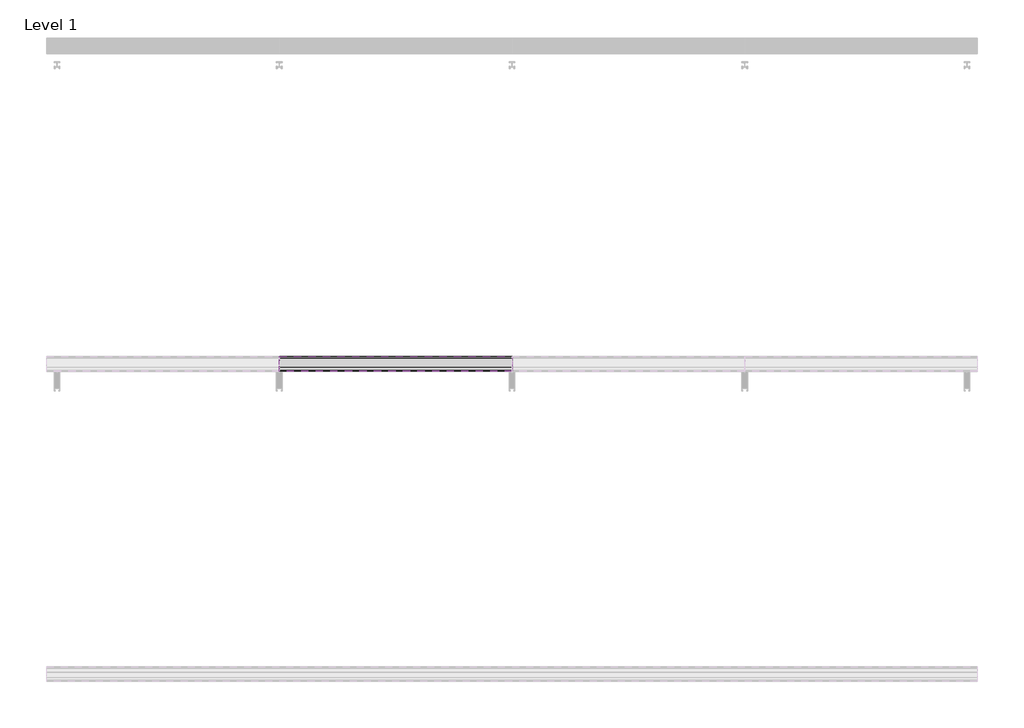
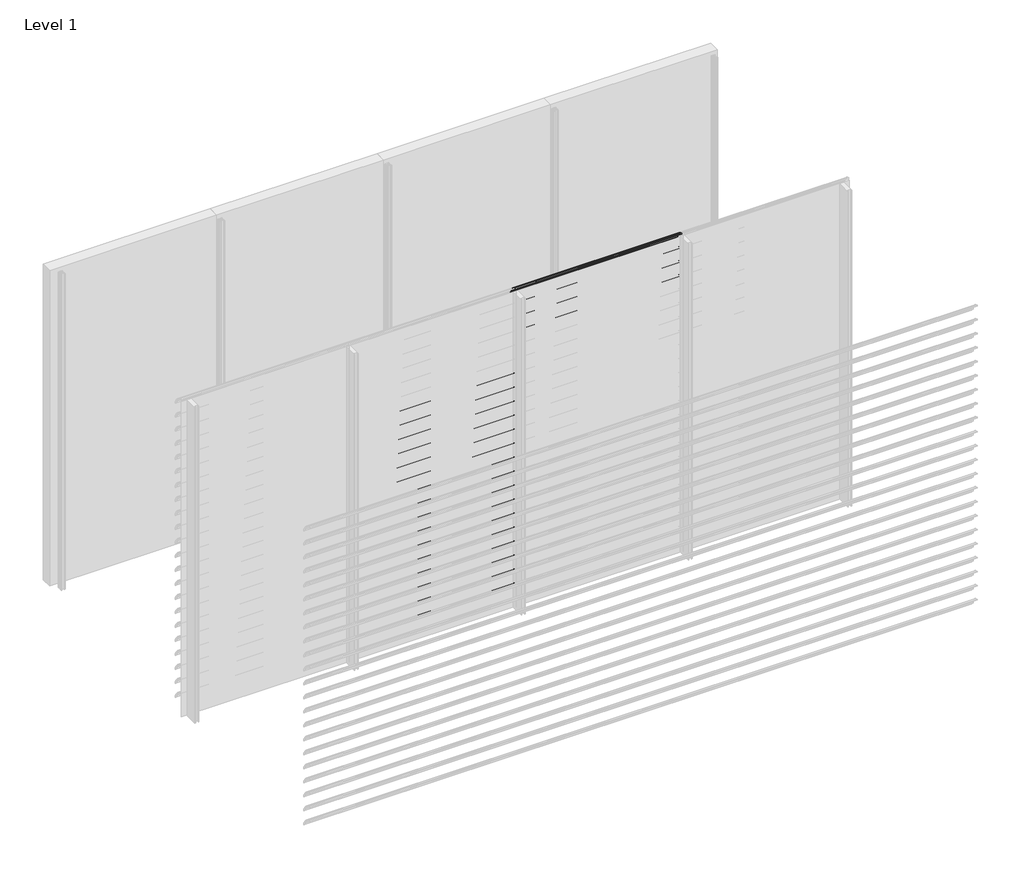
# One storey, part 11 of 57: 20 proxies.
"""IFC4 building model written with IfcOpenShell, lengths in millimetres."""

from ifc_helpers import new_model, si_unit, point, frame, frame_2d, origin, place, context, project, spatial, polyline, circle_curve, trimmed, segment, composite_curve, outline, extrude, element, save

model = new_model("IFC4")

# Units and contexts
model_context = context("Model", 3, world=origin())
ifc_project = project(units=[si_unit("LENGTHUNIT", "METRE", prefix="MILLI")], contexts=[model_context])

# Site, building, storey
site = spatial("IfcSite", under=ifc_project)
building = spatial("IfcBuilding", under=site)
storey = spatial("IfcBuildingStorey", under=building, Name="Level 1", Elevation=0.0)

# Proxies
placement = place(None, origin())
element("IfcBuildingElementProxy", 1, Name="Wall Sweeps", at=placement, inside=storey, context=model_context, shape_type="SweptSolid", body=[
    extrude(outline(composite_curve([segment(trimmed(circle_curve(frame_2d((-47993.7822526, 2218.4913792)), 4.2177474), [point((-47989.6985606, 2219.5462976))], [point((-47993.7822526, 2222.7091266))], False, "CARTESIAN"), True, "CONTINUOUS"), segment(trimmed(circle_curve(frame_2d((-48018.7150834, 2120.2536312)), 105.4456002), [point((-47993.7822526, 2222.7091266))], [point((-47971.7914298, 2214.6832099))], False, "CARTESIAN"), True, "CONTINUOUS"), segment(trimmed(circle_curve(frame_2d((-48061.7199745, 2066.0352476)), 173.7335887), [point((-47971.7914298, 2214.6832099))], [point((-47913.0720121, 2155.9637922))], False, "CARTESIAN"), True, "CONTINUOUS"), segment(trimmed(circle_curve(frame_2d((-48004.9297178, 2104.1860314)), 105.4456002), [point((-47913.0720121, 2155.9637922))], [point((-47903.6249616, 2133.4455765))], False, "CARTESIAN"), True, "CONTINUOUS"), segment(trimmed(circle_curve(frame_2d((-47907.809737, 2132.3307305)), 4.3307305), [point((-47903.6249616, 2133.4455765))], [point((-47909.0769196, 2128.189538))], False, "CARTESIAN"), True, "CONTINUOUS"), segment(polyline([(-47909.0769196, 2128.189538), (-47934.7401984, 2152.9722783)]), True, "CONTINUOUS"), segment(trimmed(circle_curve(frame_2d((-47931.3879574, 2155.2977626)), 4.079877), [point((-47934.7401984, 2152.9722783))], [point((-47930.7310597, 2159.3244091))], False, "CARTESIAN"), True, "CONTINUOUS"), segment(trimmed(circle_curve(frame_2d((-48014.6665585, 2137.2544323)), 86.7885467), [point((-47930.7310597, 2159.3244091))], [point((-47942.3028351, 2185.1683485))], True, "CARTESIAN"), True, "CONTINUOUS"), segment(polyline([(-47942.3028351, 2185.1683485), (-47940.7230099, 2187.9046861)]), True, "CONTINUOUS"), segment(trimmed(circle_curve(frame_2d((-48061.7199745, 2066.0352476)), 171.7335887), [point((-47940.7230099, 2187.9046861))], [point((-47972.7555872, 2212.9289618))], True, "CARTESIAN"), True, "CONTINUOUS"), segment(trimmed(circle_curve(frame_2d((-48018.7150834, 2120.2536312)), 103.4456002), [point((-47972.7555872, 2212.9289618))], [point((-47989.6985606, 2219.5462976))], True, "CARTESIAN"), True, "CONTINUOUS")], self_intersect=False)), frame((1500.0, 0.0, 0.0), z_axis=(1.0, 0.0, 0.0), x_axis=(0.0, 1.0, 0.0)), (0.0, 0.0, 1.0), 1500.0),
])
element("IfcBuildingElementProxy", 2, Name="Wall Sweeps", at=placement, inside=storey, context=model_context, shape_type="SweptSolid", body=[
    extrude(outline(composite_curve([segment(trimmed(circle_curve(frame_2d((-47993.7822526, 2085.4913792)), 4.2177474), [point((-47989.6985606, 2086.5462976))], [point((-47993.7822526, 2089.7091266))], False, "CARTESIAN"), True, "CONTINUOUS"), segment(trimmed(circle_curve(frame_2d((-48018.7150834, 1987.2536312)), 105.4456002), [point((-47993.7822526, 2089.7091266))], [point((-47971.7914298, 2081.6832099))], False, "CARTESIAN"), True, "CONTINUOUS"), segment(trimmed(circle_curve(frame_2d((-48061.7199745, 1933.0352476)), 173.7335887), [point((-47971.7914298, 2081.6832099))], [point((-47913.0720121, 2022.9637922))], False, "CARTESIAN"), True, "CONTINUOUS"), segment(trimmed(circle_curve(frame_2d((-48004.9297178, 1971.1860314)), 105.4456002), [point((-47913.0720121, 2022.9637922))], [point((-47903.6249616, 2000.4455765))], False, "CARTESIAN"), True, "CONTINUOUS"), segment(trimmed(circle_curve(frame_2d((-47907.809737, 1999.3307305)), 4.3307305), [point((-47903.6249616, 2000.4455765))], [point((-47909.0769196, 1995.189538))], False, "CARTESIAN"), True, "CONTINUOUS"), segment(polyline([(-47909.0769196, 1995.189538), (-47934.7401984, 2019.9722783)]), True, "CONTINUOUS"), segment(trimmed(circle_curve(frame_2d((-47931.3879574, 2022.2977626)), 4.079877), [point((-47934.7401984, 2019.9722783))], [point((-47930.7310597, 2026.3244091))], False, "CARTESIAN"), True, "CONTINUOUS"), segment(trimmed(circle_curve(frame_2d((-48014.6665585, 2004.2544323)), 86.7885467), [point((-47930.7310597, 2026.3244091))], [point((-47942.3028351, 2052.1683485))], True, "CARTESIAN"), True, "CONTINUOUS"), segment(polyline([(-47942.3028351, 2052.1683485), (-47940.7230099, 2054.9046861)]), True, "CONTINUOUS"), segment(trimmed(circle_curve(frame_2d((-48061.7199745, 1933.0352476)), 171.7335887), [point((-47940.7230099, 2054.9046861))], [point((-47972.7555872, 2079.9289618))], True, "CARTESIAN"), True, "CONTINUOUS"), segment(trimmed(circle_curve(frame_2d((-48018.7150834, 1987.2536312)), 103.4456002), [point((-47972.7555872, 2079.9289618))], [point((-47989.6985606, 2086.5462976))], True, "CARTESIAN"), True, "CONTINUOUS")], self_intersect=False)), frame((1500.0, 0.0, 0.0), z_axis=(1.0, 0.0, 0.0), x_axis=(0.0, 1.0, 0.0)), (0.0, 0.0, 1.0), 1500.0),
])
element("IfcBuildingElementProxy", 3, Name="Wall Sweeps", at=placement, inside=storey, context=model_context, shape_type="SweptSolid", body=[
    extrude(outline(composite_curve([segment(trimmed(circle_curve(frame_2d((-47993.7822526, 1952.4913792)), 4.2177474), [point((-47989.6985606, 1953.5462976))], [point((-47993.7822526, 1956.7091266))], False, "CARTESIAN"), True, "CONTINUOUS"), segment(trimmed(circle_curve(frame_2d((-48018.7150834, 1854.2536312)), 105.4456002), [point((-47993.7822526, 1956.7091266))], [point((-47971.7914298, 1948.6832099))], False, "CARTESIAN"), True, "CONTINUOUS"), segment(trimmed(circle_curve(frame_2d((-48061.7199745, 1800.0352476)), 173.7335887), [point((-47971.7914298, 1948.6832099))], [point((-47913.0720121, 1889.9637922))], False, "CARTESIAN"), True, "CONTINUOUS"), segment(trimmed(circle_curve(frame_2d((-48004.9297178, 1838.1860314)), 105.4456002), [point((-47913.0720121, 1889.9637922))], [point((-47903.6249616, 1867.4455765))], False, "CARTESIAN"), True, "CONTINUOUS"), segment(trimmed(circle_curve(frame_2d((-47907.809737, 1866.3307305)), 4.3307305), [point((-47903.6249616, 1867.4455765))], [point((-47909.0769196, 1862.189538))], False, "CARTESIAN"), True, "CONTINUOUS"), segment(polyline([(-47909.0769196, 1862.189538), (-47934.7401984, 1886.9722783)]), True, "CONTINUOUS"), segment(trimmed(circle_curve(frame_2d((-47931.3879574, 1889.2977626)), 4.079877), [point((-47934.7401984, 1886.9722783))], [point((-47930.7310597, 1893.3244091))], False, "CARTESIAN"), True, "CONTINUOUS"), segment(trimmed(circle_curve(frame_2d((-48014.6665585, 1871.2544323)), 86.7885467), [point((-47930.7310597, 1893.3244091))], [point((-47942.3028351, 1919.1683485))], True, "CARTESIAN"), True, "CONTINUOUS"), segment(polyline([(-47942.3028351, 1919.1683485), (-47940.7230099, 1921.9046861)]), True, "CONTINUOUS"), segment(trimmed(circle_curve(frame_2d((-48061.7199745, 1800.0352476)), 171.7335887), [point((-47940.7230099, 1921.9046861))], [point((-47972.7555872, 1946.9289618))], True, "CARTESIAN"), True, "CONTINUOUS"), segment(trimmed(circle_curve(frame_2d((-48018.7150834, 1854.2536312)), 103.4456002), [point((-47972.7555872, 1946.9289618))], [point((-47989.6985606, 1953.5462976))], True, "CARTESIAN"), True, "CONTINUOUS")], self_intersect=False)), frame((1500.0, 0.0, 0.0), z_axis=(1.0, 0.0, 0.0), x_axis=(0.0, 1.0, 0.0)), (0.0, 0.0, 1.0), 1500.0),
])
element("IfcBuildingElementProxy", 4, Name="Wall Sweeps", at=placement, inside=storey, context=model_context, shape_type="SweptSolid", body=[
    extrude(outline(composite_curve([segment(trimmed(circle_curve(frame_2d((-47993.7822526, 1819.4913792)), 4.2177474), [point((-47989.6985606, 1820.5462976))], [point((-47993.7822526, 1823.7091266))], False, "CARTESIAN"), True, "CONTINUOUS"), segment(trimmed(circle_curve(frame_2d((-48018.7150834, 1721.2536312)), 105.4456002), [point((-47993.7822526, 1823.7091266))], [point((-47971.7914298, 1815.6832099))], False, "CARTESIAN"), True, "CONTINUOUS"), segment(trimmed(circle_curve(frame_2d((-48061.7199745, 1667.0352476)), 173.7335887), [point((-47971.7914298, 1815.6832099))], [point((-47913.0720121, 1756.9637922))], False, "CARTESIAN"), True, "CONTINUOUS"), segment(trimmed(circle_curve(frame_2d((-48004.9297178, 1705.1860314)), 105.4456002), [point((-47913.0720121, 1756.9637922))], [point((-47903.6249616, 1734.4455765))], False, "CARTESIAN"), True, "CONTINUOUS"), segment(trimmed(circle_curve(frame_2d((-47907.809737, 1733.3307305)), 4.3307305), [point((-47903.6249616, 1734.4455765))], [point((-47909.0769196, 1729.189538))], False, "CARTESIAN"), True, "CONTINUOUS"), segment(polyline([(-47909.0769196, 1729.189538), (-47934.7401984, 1753.9722783)]), True, "CONTINUOUS"), segment(trimmed(circle_curve(frame_2d((-47931.3879574, 1756.2977626)), 4.079877), [point((-47934.7401984, 1753.9722783))], [point((-47930.7310597, 1760.3244091))], False, "CARTESIAN"), True, "CONTINUOUS"), segment(trimmed(circle_curve(frame_2d((-48014.6665585, 1738.2544323)), 86.7885467), [point((-47930.7310597, 1760.3244091))], [point((-47942.3028351, 1786.1683485))], True, "CARTESIAN"), True, "CONTINUOUS"), segment(polyline([(-47942.3028351, 1786.1683485), (-47940.7230099, 1788.9046861)]), True, "CONTINUOUS"), segment(trimmed(circle_curve(frame_2d((-48061.7199745, 1667.0352476)), 171.7335887), [point((-47940.7230099, 1788.9046861))], [point((-47972.7555872, 1813.9289618))], True, "CARTESIAN"), True, "CONTINUOUS"), segment(trimmed(circle_curve(frame_2d((-48018.7150834, 1721.2536312)), 103.4456002), [point((-47972.7555872, 1813.9289618))], [point((-47989.6985606, 1820.5462976))], True, "CARTESIAN"), True, "CONTINUOUS")], self_intersect=False)), frame((1500.0, 0.0, 0.0), z_axis=(1.0, 0.0, 0.0), x_axis=(0.0, 1.0, 0.0)), (0.0, 0.0, 1.0), 1500.0),
])
element("IfcBuildingElementProxy", 5, Name="Wall Sweeps", at=placement, inside=storey, context=model_context, shape_type="SweptSolid", body=[
    extrude(outline(composite_curve([segment(trimmed(circle_curve(frame_2d((-47993.7822526, 1686.4913792)), 4.2177474), [point((-47989.6985606, 1687.5462976))], [point((-47993.7822526, 1690.7091266))], False, "CARTESIAN"), True, "CONTINUOUS"), segment(trimmed(circle_curve(frame_2d((-48018.7150834, 1588.2536312)), 105.4456002), [point((-47993.7822526, 1690.7091266))], [point((-47971.7914298, 1682.6832099))], False, "CARTESIAN"), True, "CONTINUOUS"), segment(trimmed(circle_curve(frame_2d((-48061.7199745, 1534.0352476)), 173.7335887), [point((-47971.7914298, 1682.6832099))], [point((-47913.0720121, 1623.9637922))], False, "CARTESIAN"), True, "CONTINUOUS"), segment(trimmed(circle_curve(frame_2d((-48004.9297178, 1572.1860314)), 105.4456002), [point((-47913.0720121, 1623.9637922))], [point((-47903.6249616, 1601.4455765))], False, "CARTESIAN"), True, "CONTINUOUS"), segment(trimmed(circle_curve(frame_2d((-47907.809737, 1600.3307305)), 4.3307305), [point((-47903.6249616, 1601.4455765))], [point((-47909.0769196, 1596.189538))], False, "CARTESIAN"), True, "CONTINUOUS"), segment(polyline([(-47909.0769196, 1596.189538), (-47934.7401984, 1620.9722783)]), True, "CONTINUOUS"), segment(trimmed(circle_curve(frame_2d((-47931.3879574, 1623.2977626)), 4.079877), [point((-47934.7401984, 1620.9722783))], [point((-47930.7310597, 1627.3244091))], False, "CARTESIAN"), True, "CONTINUOUS"), segment(trimmed(circle_curve(frame_2d((-48014.6665585, 1605.2544323)), 86.7885467), [point((-47930.7310597, 1627.3244091))], [point((-47942.3028351, 1653.1683485))], True, "CARTESIAN"), True, "CONTINUOUS"), segment(polyline([(-47942.3028351, 1653.1683485), (-47940.7230099, 1655.9046861)]), True, "CONTINUOUS"), segment(trimmed(circle_curve(frame_2d((-48061.7199745, 1534.0352476)), 171.7335887), [point((-47940.7230099, 1655.9046861))], [point((-47972.7555872, 1680.9289618))], True, "CARTESIAN"), True, "CONTINUOUS"), segment(trimmed(circle_curve(frame_2d((-48018.7150834, 1588.2536312)), 103.4456002), [point((-47972.7555872, 1680.9289618))], [point((-47989.6985606, 1687.5462976))], True, "CARTESIAN"), True, "CONTINUOUS")], self_intersect=False)), frame((1500.0, 0.0, 0.0), z_axis=(1.0, 0.0, 0.0), x_axis=(0.0, 1.0, 0.0)), (0.0, 0.0, 1.0), 1500.0),
])
element("IfcBuildingElementProxy", 6, Name="Wall Sweeps", at=placement, inside=storey, context=model_context, shape_type="SweptSolid", body=[
    extrude(outline(composite_curve([segment(trimmed(circle_curve(frame_2d((-47993.7822526, 1553.4913792)), 4.2177474), [point((-47989.6985606, 1554.5462976))], [point((-47993.7822526, 1557.7091266))], False, "CARTESIAN"), True, "CONTINUOUS"), segment(trimmed(circle_curve(frame_2d((-48018.7150834, 1455.2536312)), 105.4456002), [point((-47993.7822526, 1557.7091266))], [point((-47971.7914298, 1549.6832099))], False, "CARTESIAN"), True, "CONTINUOUS"), segment(trimmed(circle_curve(frame_2d((-48061.7199745, 1401.0352476)), 173.7335887), [point((-47971.7914298, 1549.6832099))], [point((-47913.0720121, 1490.9637922))], False, "CARTESIAN"), True, "CONTINUOUS"), segment(trimmed(circle_curve(frame_2d((-48004.9297178, 1439.1860314)), 105.4456002), [point((-47913.0720121, 1490.9637922))], [point((-47903.6249616, 1468.4455765))], False, "CARTESIAN"), True, "CONTINUOUS"), segment(trimmed(circle_curve(frame_2d((-47907.809737, 1467.3307305)), 4.3307305), [point((-47903.6249616, 1468.4455765))], [point((-47909.0769196, 1463.189538))], False, "CARTESIAN"), True, "CONTINUOUS"), segment(polyline([(-47909.0769196, 1463.189538), (-47934.7401984, 1487.9722783)]), True, "CONTINUOUS"), segment(trimmed(circle_curve(frame_2d((-47931.3879574, 1490.2977626)), 4.079877), [point((-47934.7401984, 1487.9722783))], [point((-47930.7310597, 1494.3244091))], False, "CARTESIAN"), True, "CONTINUOUS"), segment(trimmed(circle_curve(frame_2d((-48014.6665585, 1472.2544323)), 86.7885467), [point((-47930.7310597, 1494.3244091))], [point((-47942.3028351, 1520.1683485))], True, "CARTESIAN"), True, "CONTINUOUS"), segment(polyline([(-47942.3028351, 1520.1683485), (-47940.7230099, 1522.9046861)]), True, "CONTINUOUS"), segment(trimmed(circle_curve(frame_2d((-48061.7199745, 1401.0352476)), 171.7335887), [point((-47940.7230099, 1522.9046861))], [point((-47972.7555872, 1547.9289618))], True, "CARTESIAN"), True, "CONTINUOUS"), segment(trimmed(circle_curve(frame_2d((-48018.7150834, 1455.2536312)), 103.4456002), [point((-47972.7555872, 1547.9289618))], [point((-47989.6985606, 1554.5462976))], True, "CARTESIAN"), True, "CONTINUOUS")], self_intersect=False)), frame((1500.0, 0.0, 0.0), z_axis=(1.0, 0.0, 0.0), x_axis=(0.0, 1.0, 0.0)), (0.0, 0.0, 1.0), 1500.0),
])
element("IfcBuildingElementProxy", 7, Name="Wall Sweeps", at=placement, inside=storey, context=model_context, shape_type="SweptSolid", body=[
    extrude(outline(composite_curve([segment(trimmed(circle_curve(frame_2d((-47993.7822526, 1420.4913792)), 4.2177474), [point((-47989.6985606, 1421.5462976))], [point((-47993.7822526, 1424.7091266))], False, "CARTESIAN"), True, "CONTINUOUS"), segment(trimmed(circle_curve(frame_2d((-48018.7150834, 1322.2536312)), 105.4456002), [point((-47993.7822526, 1424.7091266))], [point((-47971.7914298, 1416.6832099))], False, "CARTESIAN"), True, "CONTINUOUS"), segment(trimmed(circle_curve(frame_2d((-48061.7199745, 1268.0352476)), 173.7335887), [point((-47971.7914298, 1416.6832099))], [point((-47913.0720121, 1357.9637922))], False, "CARTESIAN"), True, "CONTINUOUS"), segment(trimmed(circle_curve(frame_2d((-48004.9297178, 1306.1860314)), 105.4456002), [point((-47913.0720121, 1357.9637922))], [point((-47903.6249616, 1335.4455765))], False, "CARTESIAN"), True, "CONTINUOUS"), segment(trimmed(circle_curve(frame_2d((-47907.809737, 1334.3307305)), 4.3307305), [point((-47903.6249616, 1335.4455765))], [point((-47909.0769196, 1330.189538))], False, "CARTESIAN"), True, "CONTINUOUS"), segment(polyline([(-47909.0769196, 1330.189538), (-47934.7401984, 1354.9722783)]), True, "CONTINUOUS"), segment(trimmed(circle_curve(frame_2d((-47931.3879574, 1357.2977626)), 4.079877), [point((-47934.7401984, 1354.9722783))], [point((-47930.7310597, 1361.3244091))], False, "CARTESIAN"), True, "CONTINUOUS"), segment(trimmed(circle_curve(frame_2d((-48014.6665585, 1339.2544323)), 86.7885467), [point((-47930.7310597, 1361.3244091))], [point((-47942.3028351, 1387.1683485))], True, "CARTESIAN"), True, "CONTINUOUS"), segment(polyline([(-47942.3028351, 1387.1683485), (-47940.7230099, 1389.9046861)]), True, "CONTINUOUS"), segment(trimmed(circle_curve(frame_2d((-48061.7199745, 1268.0352476)), 171.7335887), [point((-47940.7230099, 1389.9046861))], [point((-47972.7555872, 1414.9289618))], True, "CARTESIAN"), True, "CONTINUOUS"), segment(trimmed(circle_curve(frame_2d((-48018.7150834, 1322.2536312)), 103.4456002), [point((-47972.7555872, 1414.9289618))], [point((-47989.6985606, 1421.5462976))], True, "CARTESIAN"), True, "CONTINUOUS")], self_intersect=False)), frame((1500.0, 0.0, 0.0), z_axis=(1.0, 0.0, 0.0), x_axis=(0.0, 1.0, 0.0)), (0.0, 0.0, 1.0), 1500.0),
])
element("IfcBuildingElementProxy", 8, Name="Wall Sweeps", at=placement, inside=storey, context=model_context, shape_type="SweptSolid", body=[
    extrude(outline(composite_curve([segment(trimmed(circle_curve(frame_2d((-47993.7822526, 1287.4913792)), 4.2177474), [point((-47989.6985606, 1288.5462976))], [point((-47993.7822526, 1291.7091266))], False, "CARTESIAN"), True, "CONTINUOUS"), segment(trimmed(circle_curve(frame_2d((-48018.7150834, 1189.2536312)), 105.4456002), [point((-47993.7822526, 1291.7091266))], [point((-47971.7914298, 1283.6832099))], False, "CARTESIAN"), True, "CONTINUOUS"), segment(trimmed(circle_curve(frame_2d((-48061.7199745, 1135.0352476)), 173.7335887), [point((-47971.7914298, 1283.6832099))], [point((-47913.0720121, 1224.9637922))], False, "CARTESIAN"), True, "CONTINUOUS"), segment(trimmed(circle_curve(frame_2d((-48004.9297178, 1173.1860314)), 105.4456002), [point((-47913.0720121, 1224.9637922))], [point((-47903.6249616, 1202.4455765))], False, "CARTESIAN"), True, "CONTINUOUS"), segment(trimmed(circle_curve(frame_2d((-47907.809737, 1201.3307305)), 4.3307305), [point((-47903.6249616, 1202.4455765))], [point((-47909.0769196, 1197.189538))], False, "CARTESIAN"), True, "CONTINUOUS"), segment(polyline([(-47909.0769196, 1197.189538), (-47934.7401984, 1221.9722783)]), True, "CONTINUOUS"), segment(trimmed(circle_curve(frame_2d((-47931.3879574, 1224.2977626)), 4.079877), [point((-47934.7401984, 1221.9722783))], [point((-47930.7310597, 1228.3244091))], False, "CARTESIAN"), True, "CONTINUOUS"), segment(trimmed(circle_curve(frame_2d((-48014.6665585, 1206.2544323)), 86.7885467), [point((-47930.7310597, 1228.3244091))], [point((-47942.3028351, 1254.1683485))], True, "CARTESIAN"), True, "CONTINUOUS"), segment(polyline([(-47942.3028351, 1254.1683485), (-47940.7230099, 1256.9046861)]), True, "CONTINUOUS"), segment(trimmed(circle_curve(frame_2d((-48061.7199745, 1135.0352476)), 171.7335887), [point((-47940.7230099, 1256.9046861))], [point((-47972.7555872, 1281.9289618))], True, "CARTESIAN"), True, "CONTINUOUS"), segment(trimmed(circle_curve(frame_2d((-48018.7150834, 1189.2536312)), 103.4456002), [point((-47972.7555872, 1281.9289618))], [point((-47989.6985606, 1288.5462976))], True, "CARTESIAN"), True, "CONTINUOUS")], self_intersect=False)), frame((1500.0, 0.0, 0.0), z_axis=(1.0, 0.0, 0.0), x_axis=(0.0, 1.0, 0.0)), (0.0, 0.0, 1.0), 1500.0),
])
element("IfcBuildingElementProxy", 9, Name="Wall Sweeps", at=placement, inside=storey, context=model_context, shape_type="SweptSolid", body=[
    extrude(outline(composite_curve([segment(trimmed(circle_curve(frame_2d((-47993.7822526, 1154.4913792)), 4.2177474), [point((-47989.6985606, 1155.5462976))], [point((-47993.7822526, 1158.7091266))], False, "CARTESIAN"), True, "CONTINUOUS"), segment(trimmed(circle_curve(frame_2d((-48018.7150834, 1056.2536312)), 105.4456002), [point((-47993.7822526, 1158.7091266))], [point((-47971.7914298, 1150.6832099))], False, "CARTESIAN"), True, "CONTINUOUS"), segment(trimmed(circle_curve(frame_2d((-48061.7199745, 1002.0352476)), 173.7335887), [point((-47971.7914298, 1150.6832099))], [point((-47913.0720121, 1091.9637922))], False, "CARTESIAN"), True, "CONTINUOUS"), segment(trimmed(circle_curve(frame_2d((-48004.9297178, 1040.1860314)), 105.4456002), [point((-47913.0720121, 1091.9637922))], [point((-47903.6249616, 1069.4455765))], False, "CARTESIAN"), True, "CONTINUOUS"), segment(trimmed(circle_curve(frame_2d((-47907.809737, 1068.3307305)), 4.3307305), [point((-47903.6249616, 1069.4455765))], [point((-47909.0769196, 1064.189538))], False, "CARTESIAN"), True, "CONTINUOUS"), segment(polyline([(-47909.0769196, 1064.189538), (-47934.7401984, 1088.9722783)]), True, "CONTINUOUS"), segment(trimmed(circle_curve(frame_2d((-47931.3879574, 1091.2977626)), 4.079877), [point((-47934.7401984, 1088.9722783))], [point((-47930.7310597, 1095.3244091))], False, "CARTESIAN"), True, "CONTINUOUS"), segment(trimmed(circle_curve(frame_2d((-48014.6665585, 1073.2544323)), 86.7885467), [point((-47930.7310597, 1095.3244091))], [point((-47942.3028351, 1121.1683485))], True, "CARTESIAN"), True, "CONTINUOUS"), segment(polyline([(-47942.3028351, 1121.1683485), (-47940.7230099, 1123.9046861)]), True, "CONTINUOUS"), segment(trimmed(circle_curve(frame_2d((-48061.7199745, 1002.0352476)), 171.7335887), [point((-47940.7230099, 1123.9046861))], [point((-47972.7555872, 1148.9289618))], True, "CARTESIAN"), True, "CONTINUOUS"), segment(trimmed(circle_curve(frame_2d((-48018.7150834, 1056.2536312)), 103.4456002), [point((-47972.7555872, 1148.9289618))], [point((-47989.6985606, 1155.5462976))], True, "CARTESIAN"), True, "CONTINUOUS")], self_intersect=False)), frame((1500.0, 0.0, 0.0), z_axis=(1.0, 0.0, 0.0), x_axis=(0.0, 1.0, 0.0)), (0.0, 0.0, 1.0), 1500.0),
])
element("IfcBuildingElementProxy", 10, Name="Wall Sweeps", at=placement, inside=storey, context=model_context, shape_type="SweptSolid", body=[
    extrude(outline(composite_curve([segment(trimmed(circle_curve(frame_2d((-47993.7822526, 1021.4913792)), 4.2177474), [point((-47989.6985606, 1022.5462976))], [point((-47993.7822526, 1025.7091266))], False, "CARTESIAN"), True, "CONTINUOUS"), segment(trimmed(circle_curve(frame_2d((-48018.7150834, 923.2536312)), 105.4456002), [point((-47993.7822526, 1025.7091266))], [point((-47971.7914298, 1017.6832099))], False, "CARTESIAN"), True, "CONTINUOUS"), segment(trimmed(circle_curve(frame_2d((-48061.7199745, 869.0352476)), 173.7335887), [point((-47971.7914298, 1017.6832099))], [point((-47913.0720121, 958.9637922))], False, "CARTESIAN"), True, "CONTINUOUS"), segment(trimmed(circle_curve(frame_2d((-48004.9297178, 907.1860314)), 105.4456002), [point((-47913.0720121, 958.9637922))], [point((-47903.6249616, 936.4455765))], False, "CARTESIAN"), True, "CONTINUOUS"), segment(trimmed(circle_curve(frame_2d((-47907.809737, 935.3307305)), 4.3307305), [point((-47903.6249616, 936.4455765))], [point((-47909.0769196, 931.189538))], False, "CARTESIAN"), True, "CONTINUOUS"), segment(polyline([(-47909.0769196, 931.189538), (-47934.7401984, 955.9722783)]), True, "CONTINUOUS"), segment(trimmed(circle_curve(frame_2d((-47931.3879574, 958.2977626)), 4.079877), [point((-47934.7401984, 955.9722783))], [point((-47930.7310597, 962.3244091))], False, "CARTESIAN"), True, "CONTINUOUS"), segment(trimmed(circle_curve(frame_2d((-48014.6665585, 940.2544323)), 86.7885467), [point((-47930.7310597, 962.3244091))], [point((-47942.3028351, 988.1683485))], True, "CARTESIAN"), True, "CONTINUOUS"), segment(polyline([(-47942.3028351, 988.1683485), (-47940.7230099, 990.9046861)]), True, "CONTINUOUS"), segment(trimmed(circle_curve(frame_2d((-48061.7199745, 869.0352476)), 171.7335887), [point((-47940.7230099, 990.9046861))], [point((-47972.7555872, 1015.9289618))], True, "CARTESIAN"), True, "CONTINUOUS"), segment(trimmed(circle_curve(frame_2d((-48018.7150834, 923.2536312)), 103.4456002), [point((-47972.7555872, 1015.9289618))], [point((-47989.6985606, 1022.5462976))], True, "CARTESIAN"), True, "CONTINUOUS")], self_intersect=False)), frame((1500.0, 0.0, 0.0), z_axis=(1.0, 0.0, 0.0), x_axis=(0.0, 1.0, 0.0)), (0.0, 0.0, 1.0), 1500.0),
])
element("IfcBuildingElementProxy", 11, Name="Wall Sweeps", at=placement, inside=storey, context=model_context, shape_type="SweptSolid", body=[
    extrude(outline(composite_curve([segment(trimmed(circle_curve(frame_2d((-47993.7822526, 888.4913792)), 4.2177474), [point((-47989.6985606, 889.5462976))], [point((-47993.7822526, 892.7091266))], False, "CARTESIAN"), True, "CONTINUOUS"), segment(trimmed(circle_curve(frame_2d((-48018.7150834, 790.2536312)), 105.4456002), [point((-47993.7822526, 892.7091266))], [point((-47971.7914298, 884.6832099))], False, "CARTESIAN"), True, "CONTINUOUS"), segment(trimmed(circle_curve(frame_2d((-48061.7199745, 736.0352476)), 173.7335887), [point((-47971.7914298, 884.6832099))], [point((-47913.0720121, 825.9637922))], False, "CARTESIAN"), True, "CONTINUOUS"), segment(trimmed(circle_curve(frame_2d((-48004.9297178, 774.1860314)), 105.4456002), [point((-47913.0720121, 825.9637922))], [point((-47903.6249616, 803.4455765))], False, "CARTESIAN"), True, "CONTINUOUS"), segment(trimmed(circle_curve(frame_2d((-47907.809737, 802.3307305)), 4.3307305), [point((-47903.6249616, 803.4455765))], [point((-47909.0769196, 798.189538))], False, "CARTESIAN"), True, "CONTINUOUS"), segment(polyline([(-47909.0769196, 798.189538), (-47934.7401984, 822.9722783)]), True, "CONTINUOUS"), segment(trimmed(circle_curve(frame_2d((-47931.3879574, 825.2977626)), 4.079877), [point((-47934.7401984, 822.9722783))], [point((-47930.7310597, 829.3244091))], False, "CARTESIAN"), True, "CONTINUOUS"), segment(trimmed(circle_curve(frame_2d((-48014.6665585, 807.2544323)), 86.7885467), [point((-47930.7310597, 829.3244091))], [point((-47942.3028351, 855.1683485))], True, "CARTESIAN"), True, "CONTINUOUS"), segment(polyline([(-47942.3028351, 855.1683485), (-47940.7230099, 857.9046861)]), True, "CONTINUOUS"), segment(trimmed(circle_curve(frame_2d((-48061.7199745, 736.0352476)), 171.7335887), [point((-47940.7230099, 857.9046861))], [point((-47972.7555872, 882.9289618))], True, "CARTESIAN"), True, "CONTINUOUS"), segment(trimmed(circle_curve(frame_2d((-48018.7150834, 790.2536312)), 103.4456002), [point((-47972.7555872, 882.9289618))], [point((-47989.6985606, 889.5462976))], True, "CARTESIAN"), True, "CONTINUOUS")], self_intersect=False)), frame((1500.0, 0.0, 0.0), z_axis=(1.0, 0.0, 0.0), x_axis=(0.0, 1.0, 0.0)), (0.0, 0.0, 1.0), 1500.0),
])
element("IfcBuildingElementProxy", 12, Name="Wall Sweeps", at=placement, inside=storey, context=model_context, shape_type="SweptSolid", body=[
    extrude(outline(composite_curve([segment(trimmed(circle_curve(frame_2d((-47993.7822526, 755.4913792)), 4.2177474), [point((-47989.6985606, 756.5462976))], [point((-47993.7822526, 759.7091266))], False, "CARTESIAN"), True, "CONTINUOUS"), segment(trimmed(circle_curve(frame_2d((-48018.7150834, 657.2536312)), 105.4456002), [point((-47993.7822526, 759.7091266))], [point((-47971.7914298, 751.6832099))], False, "CARTESIAN"), True, "CONTINUOUS"), segment(trimmed(circle_curve(frame_2d((-48061.7199745, 603.0352476)), 173.7335887), [point((-47971.7914298, 751.6832099))], [point((-47913.0720121, 692.9637922))], False, "CARTESIAN"), True, "CONTINUOUS"), segment(trimmed(circle_curve(frame_2d((-48004.9297178, 641.1860314)), 105.4456002), [point((-47913.0720121, 692.9637922))], [point((-47903.6249616, 670.4455765))], False, "CARTESIAN"), True, "CONTINUOUS"), segment(trimmed(circle_curve(frame_2d((-47907.809737, 669.3307305)), 4.3307305), [point((-47903.6249616, 670.4455765))], [point((-47909.0769196, 665.189538))], False, "CARTESIAN"), True, "CONTINUOUS"), segment(polyline([(-47909.0769196, 665.189538), (-47934.7401984, 689.9722783)]), True, "CONTINUOUS"), segment(trimmed(circle_curve(frame_2d((-47931.3879574, 692.2977626)), 4.079877), [point((-47934.7401984, 689.9722783))], [point((-47930.7310597, 696.3244091))], False, "CARTESIAN"), True, "CONTINUOUS"), segment(trimmed(circle_curve(frame_2d((-48014.6665585, 674.2544323)), 86.7885467), [point((-47930.7310597, 696.3244091))], [point((-47942.3028351, 722.1683485))], True, "CARTESIAN"), True, "CONTINUOUS"), segment(polyline([(-47942.3028351, 722.1683485), (-47940.7230099, 724.9046861)]), True, "CONTINUOUS"), segment(trimmed(circle_curve(frame_2d((-48061.7199745, 603.0352476)), 171.7335887), [point((-47940.7230099, 724.9046861))], [point((-47972.7555872, 749.9289618))], True, "CARTESIAN"), True, "CONTINUOUS"), segment(trimmed(circle_curve(frame_2d((-48018.7150834, 657.2536312)), 103.4456002), [point((-47972.7555872, 749.9289618))], [point((-47989.6985606, 756.5462976))], True, "CARTESIAN"), True, "CONTINUOUS")], self_intersect=False)), frame((1500.0, 0.0, 0.0), z_axis=(1.0, 0.0, 0.0), x_axis=(0.0, 1.0, 0.0)), (0.0, 0.0, 1.0), 1500.0),
])
element("IfcBuildingElementProxy", 13, Name="Wall Sweeps", at=placement, inside=storey, context=model_context, shape_type="SweptSolid", body=[
    extrude(outline(composite_curve([segment(trimmed(circle_curve(frame_2d((-47993.7822526, 622.4913792)), 4.2177474), [point((-47989.6985606, 623.5462976))], [point((-47993.7822526, 626.7091266))], False, "CARTESIAN"), True, "CONTINUOUS"), segment(trimmed(circle_curve(frame_2d((-48018.7150834, 524.2536312)), 105.4456002), [point((-47993.7822526, 626.7091266))], [point((-47971.7914298, 618.6832099))], False, "CARTESIAN"), True, "CONTINUOUS"), segment(trimmed(circle_curve(frame_2d((-48061.7199745, 470.0352476)), 173.7335887), [point((-47971.7914298, 618.6832099))], [point((-47913.0720121, 559.9637922))], False, "CARTESIAN"), True, "CONTINUOUS"), segment(trimmed(circle_curve(frame_2d((-48004.9297178, 508.1860314)), 105.4456002), [point((-47913.0720121, 559.9637922))], [point((-47903.6249616, 537.4455765))], False, "CARTESIAN"), True, "CONTINUOUS"), segment(trimmed(circle_curve(frame_2d((-47907.809737, 536.3307305)), 4.3307305), [point((-47903.6249616, 537.4455765))], [point((-47909.0769196, 532.189538))], False, "CARTESIAN"), True, "CONTINUOUS"), segment(polyline([(-47909.0769196, 532.189538), (-47934.7401984, 556.9722783)]), True, "CONTINUOUS"), segment(trimmed(circle_curve(frame_2d((-47931.3879574, 559.2977626)), 4.079877), [point((-47934.7401984, 556.9722783))], [point((-47930.7310597, 563.3244091))], False, "CARTESIAN"), True, "CONTINUOUS"), segment(trimmed(circle_curve(frame_2d((-48014.6665585, 541.2544323)), 86.7885467), [point((-47930.7310597, 563.3244091))], [point((-47942.3028351, 589.1683485))], True, "CARTESIAN"), True, "CONTINUOUS"), segment(polyline([(-47942.3028351, 589.1683485), (-47940.7230099, 591.9046861)]), True, "CONTINUOUS"), segment(trimmed(circle_curve(frame_2d((-48061.7199745, 470.0352476)), 171.7335887), [point((-47940.7230099, 591.9046861))], [point((-47972.7555872, 616.9289618))], True, "CARTESIAN"), True, "CONTINUOUS"), segment(trimmed(circle_curve(frame_2d((-48018.7150834, 524.2536312)), 103.4456002), [point((-47972.7555872, 616.9289618))], [point((-47989.6985606, 623.5462976))], True, "CARTESIAN"), True, "CONTINUOUS")], self_intersect=False)), frame((1500.0, 0.0, 0.0), z_axis=(1.0, 0.0, 0.0), x_axis=(0.0, 1.0, 0.0)), (0.0, 0.0, 1.0), 1500.0),
])
element("IfcBuildingElementProxy", 14, Name="Wall Sweeps", at=placement, inside=storey, context=model_context, shape_type="SweptSolid", body=[
    extrude(outline(composite_curve([segment(trimmed(circle_curve(frame_2d((-47993.7822526, 489.4913792)), 4.2177474), [point((-47989.6985606, 490.5462976))], [point((-47993.7822526, 493.7091266))], False, "CARTESIAN"), True, "CONTINUOUS"), segment(trimmed(circle_curve(frame_2d((-48018.7150834, 391.2536312)), 105.4456002), [point((-47993.7822526, 493.7091266))], [point((-47971.7914298, 485.6832099))], False, "CARTESIAN"), True, "CONTINUOUS"), segment(trimmed(circle_curve(frame_2d((-48061.7199745, 337.0352476)), 173.7335887), [point((-47971.7914298, 485.6832099))], [point((-47913.0720121, 426.9637922))], False, "CARTESIAN"), True, "CONTINUOUS"), segment(trimmed(circle_curve(frame_2d((-48004.9297178, 375.1860314)), 105.4456002), [point((-47913.0720121, 426.9637922))], [point((-47903.6249616, 404.4455765))], False, "CARTESIAN"), True, "CONTINUOUS"), segment(trimmed(circle_curve(frame_2d((-47907.809737, 403.3307305)), 4.3307305), [point((-47903.6249616, 404.4455765))], [point((-47909.0769196, 399.189538))], False, "CARTESIAN"), True, "CONTINUOUS"), segment(polyline([(-47909.0769196, 399.189538), (-47934.7401984, 423.9722783)]), True, "CONTINUOUS"), segment(trimmed(circle_curve(frame_2d((-47931.3879574, 426.2977626)), 4.079877), [point((-47934.7401984, 423.9722783))], [point((-47930.7310597, 430.3244091))], False, "CARTESIAN"), True, "CONTINUOUS"), segment(trimmed(circle_curve(frame_2d((-48014.6665585, 408.2544323)), 86.7885467), [point((-47930.7310597, 430.3244091))], [point((-47942.3028351, 456.1683485))], True, "CARTESIAN"), True, "CONTINUOUS"), segment(polyline([(-47942.3028351, 456.1683485), (-47940.7230099, 458.9046861)]), True, "CONTINUOUS"), segment(trimmed(circle_curve(frame_2d((-48061.7199745, 337.0352476)), 171.7335887), [point((-47940.7230099, 458.9046861))], [point((-47972.7555872, 483.9289618))], True, "CARTESIAN"), True, "CONTINUOUS"), segment(trimmed(circle_curve(frame_2d((-48018.7150834, 391.2536312)), 103.4456002), [point((-47972.7555872, 483.9289618))], [point((-47989.6985606, 490.5462976))], True, "CARTESIAN"), True, "CONTINUOUS")], self_intersect=False)), frame((1500.0, 0.0, 0.0), z_axis=(1.0, 0.0, 0.0), x_axis=(0.0, 1.0, 0.0)), (0.0, 0.0, 1.0), 1500.0),
])
element("IfcBuildingElementProxy", 15, Name="Wall Sweeps", at=placement, inside=storey, context=model_context, shape_type="SweptSolid", body=[
    extrude(outline(composite_curve([segment(trimmed(circle_curve(frame_2d((-47993.7822526, 356.4913792)), 4.2177474), [point((-47989.6985606, 357.5462976))], [point((-47993.7822526, 360.7091266))], False, "CARTESIAN"), True, "CONTINUOUS"), segment(trimmed(circle_curve(frame_2d((-48018.7150834, 258.2536312)), 105.4456002), [point((-47993.7822526, 360.7091266))], [point((-47971.7914298, 352.6832099))], False, "CARTESIAN"), True, "CONTINUOUS"), segment(trimmed(circle_curve(frame_2d((-48061.7199745, 204.0352476)), 173.7335887), [point((-47971.7914298, 352.6832099))], [point((-47913.0720121, 293.9637922))], False, "CARTESIAN"), True, "CONTINUOUS"), segment(trimmed(circle_curve(frame_2d((-48004.9297178, 242.1860314)), 105.4456002), [point((-47913.0720121, 293.9637922))], [point((-47903.6249616, 271.4455765))], False, "CARTESIAN"), True, "CONTINUOUS"), segment(trimmed(circle_curve(frame_2d((-47907.809737, 270.3307305)), 4.3307305), [point((-47903.6249616, 271.4455765))], [point((-47909.0769196, 266.189538))], False, "CARTESIAN"), True, "CONTINUOUS"), segment(polyline([(-47909.0769196, 266.189538), (-47934.7401984, 290.9722783)]), True, "CONTINUOUS"), segment(trimmed(circle_curve(frame_2d((-47931.3879574, 293.2977626)), 4.079877), [point((-47934.7401984, 290.9722783))], [point((-47930.7310597, 297.3244091))], False, "CARTESIAN"), True, "CONTINUOUS"), segment(trimmed(circle_curve(frame_2d((-48014.6665585, 275.2544323)), 86.7885467), [point((-47930.7310597, 297.3244091))], [point((-47942.3028351, 323.1683485))], True, "CARTESIAN"), True, "CONTINUOUS"), segment(polyline([(-47942.3028351, 323.1683485), (-47940.7230099, 325.9046861)]), True, "CONTINUOUS"), segment(trimmed(circle_curve(frame_2d((-48061.7199745, 204.0352476)), 171.7335887), [point((-47940.7230099, 325.9046861))], [point((-47972.7555872, 350.9289618))], True, "CARTESIAN"), True, "CONTINUOUS"), segment(trimmed(circle_curve(frame_2d((-48018.7150834, 258.2536312)), 103.4456002), [point((-47972.7555872, 350.9289618))], [point((-47989.6985606, 357.5462976))], True, "CARTESIAN"), True, "CONTINUOUS")], self_intersect=False)), frame((1500.0, 0.0, 0.0), z_axis=(1.0, 0.0, 0.0), x_axis=(0.0, 1.0, 0.0)), (0.0, 0.0, 1.0), 1500.0),
])
element("IfcBuildingElementProxy", 16, Name="Wall Sweeps", at=placement, inside=storey, context=model_context, shape_type="SweptSolid", body=[
    extrude(outline(composite_curve([segment(trimmed(circle_curve(frame_2d((-47993.7822526, 223.4913792)), 4.2177474), [point((-47989.6985606, 224.5462976))], [point((-47993.7822526, 227.7091266))], False, "CARTESIAN"), True, "CONTINUOUS"), segment(trimmed(circle_curve(frame_2d((-48018.7150834, 125.2536312)), 105.4456002), [point((-47993.7822526, 227.7091266))], [point((-47971.7914298, 219.6832099))], False, "CARTESIAN"), True, "CONTINUOUS"), segment(trimmed(circle_curve(frame_2d((-48061.7199745, 71.0352476)), 173.7335887), [point((-47971.7914298, 219.6832099))], [point((-47913.0720121, 160.9637922))], False, "CARTESIAN"), True, "CONTINUOUS"), segment(trimmed(circle_curve(frame_2d((-48004.9297178, 109.1860314)), 105.4456002), [point((-47913.0720121, 160.9637922))], [point((-47903.6249616, 138.4455765))], False, "CARTESIAN"), True, "CONTINUOUS"), segment(trimmed(circle_curve(frame_2d((-47907.809737, 137.3307305)), 4.3307305), [point((-47903.6249616, 138.4455765))], [point((-47909.0769196, 133.189538))], False, "CARTESIAN"), True, "CONTINUOUS"), segment(polyline([(-47909.0769196, 133.189538), (-47934.7401984, 157.9722783)]), True, "CONTINUOUS"), segment(trimmed(circle_curve(frame_2d((-47931.3879574, 160.2977626)), 4.079877), [point((-47934.7401984, 157.9722783))], [point((-47930.7310597, 164.3244091))], False, "CARTESIAN"), True, "CONTINUOUS"), segment(trimmed(circle_curve(frame_2d((-48014.6665585, 142.2544323)), 86.7885467), [point((-47930.7310597, 164.3244091))], [point((-47942.3028351, 190.1683485))], True, "CARTESIAN"), True, "CONTINUOUS"), segment(polyline([(-47942.3028351, 190.1683485), (-47940.7230099, 192.9046861)]), True, "CONTINUOUS"), segment(trimmed(circle_curve(frame_2d((-48061.7199745, 71.0352476)), 171.7335887), [point((-47940.7230099, 192.9046861))], [point((-47972.7555872, 217.9289618))], True, "CARTESIAN"), True, "CONTINUOUS"), segment(trimmed(circle_curve(frame_2d((-48018.7150834, 125.2536312)), 103.4456002), [point((-47972.7555872, 217.9289618))], [point((-47989.6985606, 224.5462976))], True, "CARTESIAN"), True, "CONTINUOUS")], self_intersect=False)), frame((1500.0, 0.0, 0.0), z_axis=(1.0, 0.0, 0.0), x_axis=(0.0, 1.0, 0.0)), (0.0, 0.0, 1.0), 1500.0),
])
element("IfcBuildingElementProxy", 17, Name="Wall Sweeps", at=placement, inside=storey, context=model_context, shape_type="SweptSolid", body=[
    extrude(outline(composite_curve([segment(trimmed(circle_curve(frame_2d((-47993.7822526, 3016.4913792)), 4.2177474), [point((-47989.6985606, 3017.5462976))], [point((-47993.7822526, 3020.7091266))], False, "CARTESIAN"), True, "CONTINUOUS"), segment(trimmed(circle_curve(frame_2d((-48018.7150834, 2918.2536312)), 105.4456002), [point((-47993.7822526, 3020.7091266))], [point((-47971.7914298, 3012.6832099))], False, "CARTESIAN"), True, "CONTINUOUS"), segment(trimmed(circle_curve(frame_2d((-48061.7199745, 2864.0352476)), 173.7335887), [point((-47971.7914298, 3012.6832099))], [point((-47913.0720121, 2953.9637922))], False, "CARTESIAN"), True, "CONTINUOUS"), segment(trimmed(circle_curve(frame_2d((-48004.9297178, 2902.1860314)), 105.4456002), [point((-47913.0720121, 2953.9637922))], [point((-47903.6249616, 2931.4455765))], False, "CARTESIAN"), True, "CONTINUOUS"), segment(trimmed(circle_curve(frame_2d((-47907.809737, 2930.3307305)), 4.3307305), [point((-47903.6249616, 2931.4455765))], [point((-47909.0769196, 2926.189538))], False, "CARTESIAN"), True, "CONTINUOUS"), segment(polyline([(-47909.0769196, 2926.189538), (-47934.7401984, 2950.9722783)]), True, "CONTINUOUS"), segment(trimmed(circle_curve(frame_2d((-47931.3879574, 2953.2977626)), 4.079877), [point((-47934.7401984, 2950.9722783))], [point((-47930.7310597, 2957.3244091))], False, "CARTESIAN"), True, "CONTINUOUS"), segment(trimmed(circle_curve(frame_2d((-48014.6665585, 2935.2544323)), 86.7885467), [point((-47930.7310597, 2957.3244091))], [point((-47942.3028351, 2983.1683485))], True, "CARTESIAN"), True, "CONTINUOUS"), segment(polyline([(-47942.3028351, 2983.1683485), (-47940.7230099, 2985.9046861)]), True, "CONTINUOUS"), segment(trimmed(circle_curve(frame_2d((-48061.7199745, 2864.0352476)), 171.7335887), [point((-47940.7230099, 2985.9046861))], [point((-47972.7555872, 3010.9289618))], True, "CARTESIAN"), True, "CONTINUOUS"), segment(trimmed(circle_curve(frame_2d((-48018.7150834, 2918.2536312)), 103.4456002), [point((-47972.7555872, 3010.9289618))], [point((-47989.6985606, 3017.5462976))], True, "CARTESIAN"), True, "CONTINUOUS")], self_intersect=False)), frame((3000.0, 0.0, 0.0), z_axis=(1.0, 0.0, 0.0), x_axis=(0.0, 1.0, 0.0)), (0.0, 0.0, 1.0), 1500.0),
])
element("IfcBuildingElementProxy", 18, Name="Wall Sweeps", at=placement, inside=storey, context=model_context, shape_type="SweptSolid", body=[
    extrude(outline(composite_curve([segment(trimmed(circle_curve(frame_2d((-47993.7822526, 2883.4913792)), 4.2177474), [point((-47989.6985606, 2884.5462976))], [point((-47993.7822526, 2887.7091266))], False, "CARTESIAN"), True, "CONTINUOUS"), segment(trimmed(circle_curve(frame_2d((-48018.7150834, 2785.2536312)), 105.4456002), [point((-47993.7822526, 2887.7091266))], [point((-47971.7914298, 2879.6832099))], False, "CARTESIAN"), True, "CONTINUOUS"), segment(trimmed(circle_curve(frame_2d((-48061.7199745, 2731.0352476)), 173.7335887), [point((-47971.7914298, 2879.6832099))], [point((-47913.0720121, 2820.9637922))], False, "CARTESIAN"), True, "CONTINUOUS"), segment(trimmed(circle_curve(frame_2d((-48004.9297178, 2769.1860314)), 105.4456002), [point((-47913.0720121, 2820.9637922))], [point((-47903.6249616, 2798.4455765))], False, "CARTESIAN"), True, "CONTINUOUS"), segment(trimmed(circle_curve(frame_2d((-47907.809737, 2797.3307305)), 4.3307305), [point((-47903.6249616, 2798.4455765))], [point((-47909.0769196, 2793.189538))], False, "CARTESIAN"), True, "CONTINUOUS"), segment(polyline([(-47909.0769196, 2793.189538), (-47934.7401984, 2817.9722783)]), True, "CONTINUOUS"), segment(trimmed(circle_curve(frame_2d((-47931.3879574, 2820.2977626)), 4.079877), [point((-47934.7401984, 2817.9722783))], [point((-47930.7310597, 2824.3244091))], False, "CARTESIAN"), True, "CONTINUOUS"), segment(trimmed(circle_curve(frame_2d((-48014.6665585, 2802.2544323)), 86.7885467), [point((-47930.7310597, 2824.3244091))], [point((-47942.3028351, 2850.1683485))], True, "CARTESIAN"), True, "CONTINUOUS"), segment(polyline([(-47942.3028351, 2850.1683485), (-47940.7230099, 2852.9046861)]), True, "CONTINUOUS"), segment(trimmed(circle_curve(frame_2d((-48061.7199745, 2731.0352476)), 171.7335887), [point((-47940.7230099, 2852.9046861))], [point((-47972.7555872, 2877.9289618))], True, "CARTESIAN"), True, "CONTINUOUS"), segment(trimmed(circle_curve(frame_2d((-48018.7150834, 2785.2536312)), 103.4456002), [point((-47972.7555872, 2877.9289618))], [point((-47989.6985606, 2884.5462976))], True, "CARTESIAN"), True, "CONTINUOUS")], self_intersect=False)), frame((3000.0, 0.0, 0.0), z_axis=(1.0, 0.0, 0.0), x_axis=(0.0, 1.0, 0.0)), (0.0, 0.0, 1.0), 1500.0),
])
element("IfcBuildingElementProxy", 19, Name="Wall Sweeps", at=placement, inside=storey, context=model_context, shape_type="SweptSolid", body=[
    extrude(outline(composite_curve([segment(trimmed(circle_curve(frame_2d((-47993.7822526, 2750.4913792)), 4.2177474), [point((-47989.6985606, 2751.5462976))], [point((-47993.7822526, 2754.7091266))], False, "CARTESIAN"), True, "CONTINUOUS"), segment(trimmed(circle_curve(frame_2d((-48018.7150834, 2652.2536312)), 105.4456002), [point((-47993.7822526, 2754.7091266))], [point((-47971.7914298, 2746.6832099))], False, "CARTESIAN"), True, "CONTINUOUS"), segment(trimmed(circle_curve(frame_2d((-48061.7199745, 2598.0352476)), 173.7335887), [point((-47971.7914298, 2746.6832099))], [point((-47913.0720121, 2687.9637922))], False, "CARTESIAN"), True, "CONTINUOUS"), segment(trimmed(circle_curve(frame_2d((-48004.9297178, 2636.1860314)), 105.4456002), [point((-47913.0720121, 2687.9637922))], [point((-47903.6249616, 2665.4455765))], False, "CARTESIAN"), True, "CONTINUOUS"), segment(trimmed(circle_curve(frame_2d((-47907.809737, 2664.3307305)), 4.3307305), [point((-47903.6249616, 2665.4455765))], [point((-47909.0769196, 2660.189538))], False, "CARTESIAN"), True, "CONTINUOUS"), segment(polyline([(-47909.0769196, 2660.189538), (-47934.7401984, 2684.9722783)]), True, "CONTINUOUS"), segment(trimmed(circle_curve(frame_2d((-47931.3879574, 2687.2977626)), 4.079877), [point((-47934.7401984, 2684.9722783))], [point((-47930.7310597, 2691.3244091))], False, "CARTESIAN"), True, "CONTINUOUS"), segment(trimmed(circle_curve(frame_2d((-48014.6665585, 2669.2544323)), 86.7885467), [point((-47930.7310597, 2691.3244091))], [point((-47942.3028351, 2717.1683485))], True, "CARTESIAN"), True, "CONTINUOUS"), segment(polyline([(-47942.3028351, 2717.1683485), (-47940.7230099, 2719.9046861)]), True, "CONTINUOUS"), segment(trimmed(circle_curve(frame_2d((-48061.7199745, 2598.0352476)), 171.7335887), [point((-47940.7230099, 2719.9046861))], [point((-47972.7555872, 2744.9289618))], True, "CARTESIAN"), True, "CONTINUOUS"), segment(trimmed(circle_curve(frame_2d((-48018.7150834, 2652.2536312)), 103.4456002), [point((-47972.7555872, 2744.9289618))], [point((-47989.6985606, 2751.5462976))], True, "CARTESIAN"), True, "CONTINUOUS")], self_intersect=False)), frame((3000.0, 0.0, 0.0), z_axis=(1.0, 0.0, 0.0), x_axis=(0.0, 1.0, 0.0)), (0.0, 0.0, 1.0), 1500.0),
])
element("IfcBuildingElementProxy", 20, Name="Wall Sweeps", at=placement, inside=storey, context=model_context, shape_type="SweptSolid", body=[
    extrude(outline(composite_curve([segment(trimmed(circle_curve(frame_2d((-47993.7822526, 2617.4913792)), 4.2177474), [point((-47989.6985606, 2618.5462976))], [point((-47993.7822526, 2621.7091266))], False, "CARTESIAN"), True, "CONTINUOUS"), segment(trimmed(circle_curve(frame_2d((-48018.7150834, 2519.2536312)), 105.4456002), [point((-47993.7822526, 2621.7091266))], [point((-47971.7914298, 2613.6832099))], False, "CARTESIAN"), True, "CONTINUOUS"), segment(trimmed(circle_curve(frame_2d((-48061.7199745, 2465.0352476)), 173.7335887), [point((-47971.7914298, 2613.6832099))], [point((-47913.0720121, 2554.9637922))], False, "CARTESIAN"), True, "CONTINUOUS"), segment(trimmed(circle_curve(frame_2d((-48004.9297178, 2503.1860314)), 105.4456002), [point((-47913.0720121, 2554.9637922))], [point((-47903.6249616, 2532.4455765))], False, "CARTESIAN"), True, "CONTINUOUS"), segment(trimmed(circle_curve(frame_2d((-47907.809737, 2531.3307305)), 4.3307305), [point((-47903.6249616, 2532.4455765))], [point((-47909.0769196, 2527.189538))], False, "CARTESIAN"), True, "CONTINUOUS"), segment(polyline([(-47909.0769196, 2527.189538), (-47934.7401984, 2551.9722783)]), True, "CONTINUOUS"), segment(trimmed(circle_curve(frame_2d((-47931.3879574, 2554.2977626)), 4.079877), [point((-47934.7401984, 2551.9722783))], [point((-47930.7310597, 2558.3244091))], False, "CARTESIAN"), True, "CONTINUOUS"), segment(trimmed(circle_curve(frame_2d((-48014.6665585, 2536.2544323)), 86.7885467), [point((-47930.7310597, 2558.3244091))], [point((-47942.3028351, 2584.1683485))], True, "CARTESIAN"), True, "CONTINUOUS"), segment(polyline([(-47942.3028351, 2584.1683485), (-47940.7230099, 2586.9046861)]), True, "CONTINUOUS"), segment(trimmed(circle_curve(frame_2d((-48061.7199745, 2465.0352476)), 171.7335887), [point((-47940.7230099, 2586.9046861))], [point((-47972.7555872, 2611.9289618))], True, "CARTESIAN"), True, "CONTINUOUS"), segment(trimmed(circle_curve(frame_2d((-48018.7150834, 2519.2536312)), 103.4456002), [point((-47972.7555872, 2611.9289618))], [point((-47989.6985606, 2618.5462976))], True, "CARTESIAN"), True, "CONTINUOUS")], self_intersect=False)), frame((3000.0, 0.0, 0.0), z_axis=(1.0, 0.0, 0.0), x_axis=(0.0, 1.0, 0.0)), (0.0, 0.0, 1.0), 1500.0),
])

save(model, "model.ifc")
